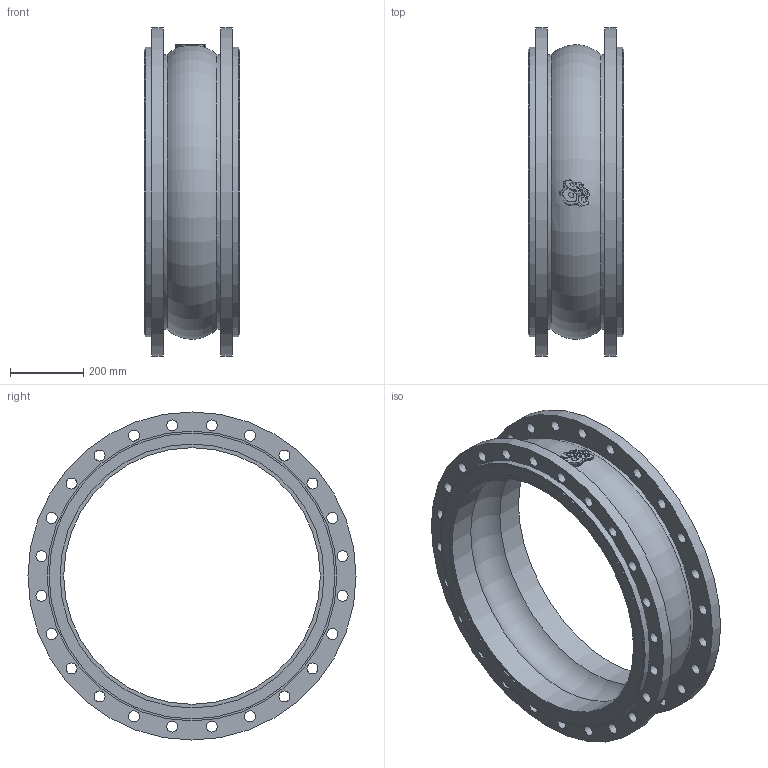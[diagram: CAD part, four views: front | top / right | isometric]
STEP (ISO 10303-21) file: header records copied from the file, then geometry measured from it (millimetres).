
FILE_DESCRIPTION(('STEP AP203'), '1');
FILE_NAME('3D_500-700-EPDM-FF', '', ('UNSPECIFIED'), ('UNSPECIFIED'), 'C3D Converter', 'C3D Toolkit', '');
FILE_SCHEMA(('CONFIG_CONTROL_DESIGN'));
Length unit declared in the file: millimetre
Bounding box: 260 x 895 x 895 mm (x, y, z)
Volume: 28317973.8 mm3; surface area: 2460238.2 mm2
Topology: 1 solids, 1 shells, 903 faces, 2653 edges, 1776 vertices
Faces by surface type: plane 833, cylinder 62, torus 8
Full cylindrical faces by diameter (mm): 30 x48, 700 x2, 720 x2, 750 x4, 780 x2, 790 x2, 895 x2
Entity records: 38938 total; most frequent: CARTESIAN_POINT 9142, ORIENTED_EDGE 5178, DIRECTION 3736, EDGE_CURVE 2589, VERTEX_POINT 1776, LINE 1626, VECTOR 1626, EDGE_LOOP 1089
